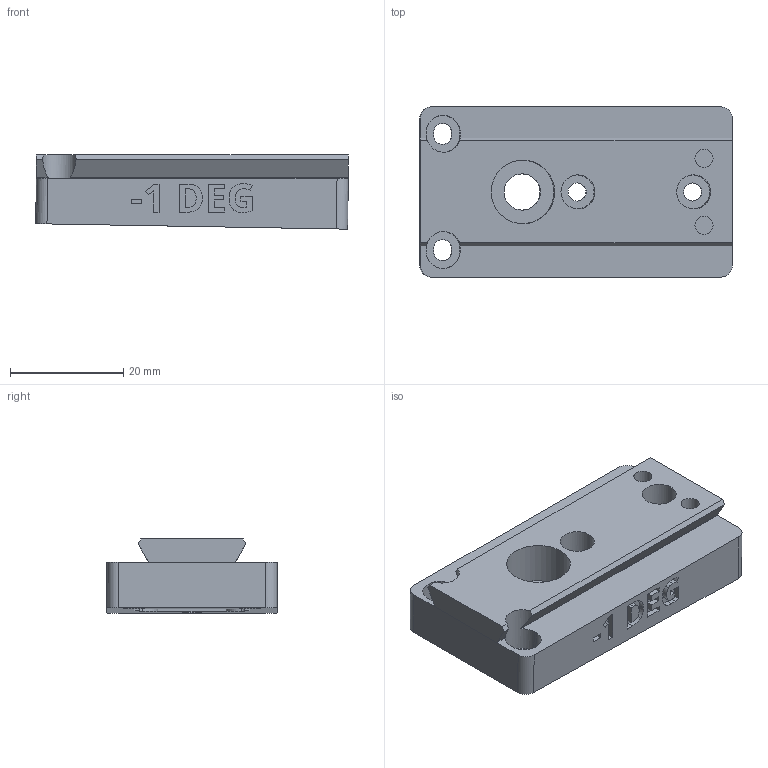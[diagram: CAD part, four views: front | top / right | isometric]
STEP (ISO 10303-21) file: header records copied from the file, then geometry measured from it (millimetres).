
FILE_DESCRIPTION(/* description */ ('STEP AP242 Edition 2','CAx-IF Rec.Pracs.---Representation and Presentation of Product Manufacturing Information (PMI)---4.0---2014-10-13','CAx-IF Rec.Pracs.---3D Tessellated Geometry---0.4---2014-09-14','2;1','CAx-IF Rec.Pracs.---User Defined Attributes---1.5---2016-08-15'),/* implementation_level */ '2;1');
FILE_NAME(/* name */ 'Camera Wedges - CAMERA MOUNTING WEDGE, NEG, -1 DEG',/* time_stamp */ '2026-07-08T20:34:13Z',/* author */ (''),/* organization */ (''),/* preprocessor_version */ 'ST-DEVELOPER v20',/* originating_system */ 'ONSHAPE BY PTC INC, 1.217',/* authorisation */ ' ');
FILE_SCHEMA (('AP242_MANAGED_MODEL_BASED_3D_ENGINEERING_MIM_LF { 1 0 10303 442 3 1 4 }'));
Length unit declared in the file: metre
Products named in the file (1): CAMERA MOUNTING WEDGE, NEG, -1 DEG
Bounding box: 55.15 x 30 x 13.1 mm (x, y, z)
Volume: 15116.6 mm3; surface area: 6783.6 mm2
Topology: 1 solids, 1 shells, 204 faces, 548 edges, 364 vertices
Faces by surface type: plane 138, cylinder 36, bspline 30
Full cylindrical faces by diameter (mm): 3.2 x4, 6 x2, 6.4 x1, 11.2 x1
Entity records: 6446 total; most frequent: CARTESIAN_POINT 1439, ORIENTED_EDGE 1080, DIRECTION 914, EDGE_CURVE 540, LINE 396, VECTOR 396, VERTEX_POINT 364, AXIS2_PLACEMENT_3D 259
